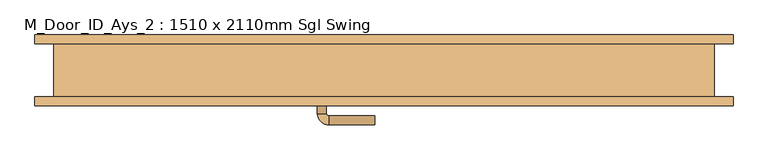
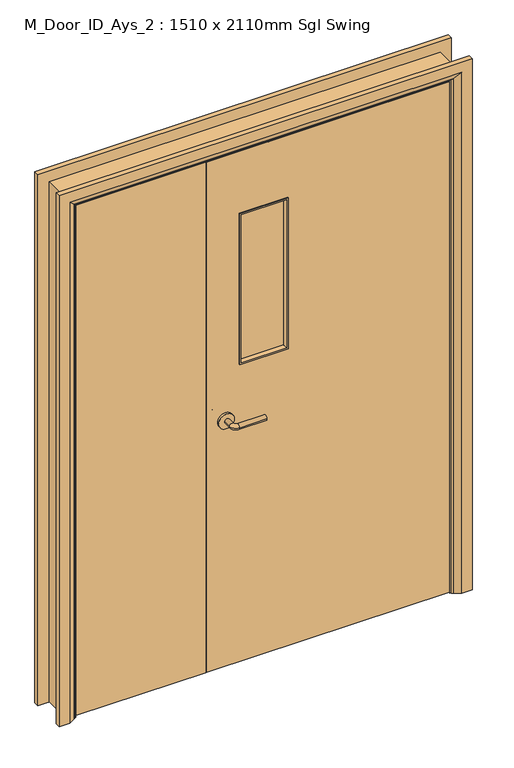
"""IFC4 building model written with IfcOpenShell, lengths in millimetres: door geometry, M_Door_ID_Ays_2 : 1510 x 2110mm Sgl Swing."""

from ifc_helpers import new_model, si_unit, point, frame, frame_2d, origin, place, context, project, spatial, polyline, circle_curve, ellipse_curve, trimmed, segment, composite_curve, outline, extrude, faceted_brep, source, transform, mapped, element, save
from ifc_brep_helpers import plane_surface, cylinder_surface, revolved_surface, advanced_brep


def m_door_id_ays_2_1510_x_2110mm_sgl_swing_0fa4cad0(model_context):
    return source(origin(), model_context, "Body", "SolidModel", [
        advanced_brep(
        [(88.5, -20.0, 1000.0), (108.5, -20.0, 1000.0), (88.5, 10.0, 1000.0), (108.5, 10.0, 1000.0), (113.5, 15.0, 1000.0), (113.5, 35.0, 1000.0), (218.5, 35.0, 1000.0), (218.5, 15.0, 1000.0)],
        [
            (0, 1, circle_curve(frame((98.5, -20.0, 1000.0), z_axis=(0.0, -1.0, 0.0), x_axis=(1.0, 0.0, 0.0)), 10.0)),
            (1, 0, circle_curve(frame((98.5, -20.0, 1000.0), z_axis=(0.0, -1.0, 0.0), x_axis=(1.0, 0.0, 0.0)), 10.0)),
            (0, 2),
            (2, 3, circle_curve(frame((98.5, 10.0, 1000.0), z_axis=(0.0, -1.0, 0.0), x_axis=(1.0, 0.0, 0.0)), 10.0)),
            (3, 1),
            (3, 2, circle_curve(frame((98.5, 10.0, 1000.0), z_axis=(0.0, -1.0, 0.0), x_axis=(1.0, 0.0, 0.0)), 10.0)),
            (4, 3, circle_curve(frame((113.5, 10.0, 1000.0), z_axis=(0.0, 0.0, 1.0), x_axis=(-1.0, 0.0, 0.0)), 5.0)),
            (2, 5, circle_curve(frame((113.5, 10.0, 1000.0), z_axis=(0.0, 0.0, -1.0), x_axis=(-1.0, 0.0, 0.0)), 25.0)),
            (5, 4, circle_curve(frame((113.5, 25.0, 1000.0), z_axis=(-1.0, 0.0, 0.0), x_axis=(0.0, -1.0, 0.0)), 10.0)),
            (4, 5, circle_curve(frame((113.5, 25.0, 1000.0), z_axis=(-1.0, 0.0, 0.0), x_axis=(0.0, -1.0, 0.0)), 10.0)),
            (6, 7, circle_curve(frame((218.5, 25.0, 1000.0), z_axis=(1.0, 0.0, 0.0), x_axis=(0.0, -1.0, 0.0)), 10.0)),
            (7, 6, circle_curve(frame((218.5, 25.0, 1000.0), z_axis=(1.0, 0.0, 0.0), x_axis=(0.0, -1.0, 0.0)), 10.0)),
            (5, 6),
            (7, 4),
        ],
        [
            plane_surface(frame((98.5, -20.0, 1000.0), z_axis=(0.0, -1.0, 0.0), x_axis=(0.0, 0.0, 1.0))),
            cylinder_surface(frame((98.5, -20.0, 1000.0), z_axis=(0.0, -1.0, 0.0), x_axis=(1.0, 0.0, 0.0)), 10.0),
            revolved_surface(trimmed(ellipse_curve(frame((98.5, 10.0, 1000.0), z_axis=(0.0, -1.0, 0.0), x_axis=(1.0, 0.0, 0.0)), 10.0, 10.0), [point((88.5, 10.0, 1000.0))], [point((108.5, 10.0, 1000.0))], True, "CARTESIAN"), (113.5, 10.0, 1000.0), (0.0, 0.0, -1.0)),
            revolved_surface(trimmed(ellipse_curve(frame((98.5, 10.0, 1000.0), z_axis=(0.0, -1.0, 0.0), x_axis=(1.0, 0.0, 0.0)), 10.0, 10.0), [point((108.5, 10.0, 1000.0))], [point((88.5, 10.0, 1000.0))], True, "CARTESIAN"), (113.5, 10.0, 1000.0), (0.0, 0.0, -1.0)),
            plane_surface(frame((218.5, 25.0, 1000.0), z_axis=(1.0, 0.0, 0.0), x_axis=(0.0, 0.0, 1.0))),
            cylinder_surface(frame((113.5, 25.0, 1000.0), z_axis=(-1.0, 0.0, 0.0), x_axis=(0.0, -1.0, 0.0)), 10.0),
        ],
        [
            (0, [[1, 2]]),
            (1, [[-1, 3, 4, 5]]),
            (1, [[-2, -5, 6, -3]]),
            (2, [[7, -4, 8, 9]]),
            (3, [[-8, -6, -7, 10]]),
            (4, [[11, 12]]),
            (5, [[-9, 13, -12, 14]]),
            (5, [[-10, -14, -11, -13]]),
        ],
    ),
        extrude(outline(composite_curve([segment(trimmed(circle_curve(frame_2d((1000.0, 96.0)), 30.0), [point((1000.0, 66.0))], [point((1000.0, 126.0))], False, "CARTESIAN"), True, "CONTINUOUS"), segment(trimmed(circle_curve(frame_2d((1000.0, 96.0)), 30.0), [point((1000.0, 126.0))], [point((1000.0, 66.0))], False, "CARTESIAN"), True, "CONTINUOUS")], self_intersect=False)), frame((0.0, -28.0, 0.0), z_axis=(0.0, 1.0, 0.0), x_axis=(0.0, 0.0, 1.0)), (0.0, 0.0, 1.0), 8.0),
        advanced_brep(
        [(88.5, -68.0, 1000.0), (108.5, -68.0, 1000.0), (108.5, -98.0, 1000.0), (88.5, -98.0, 1000.0), (113.5, -103.0, 1000.0), (113.5, -123.0, 1000.0), (218.5, -123.0, 1000.0), (218.5, -103.0, 1000.0)],
        [
            (0, 1, circle_curve(frame((98.5, -68.0, 1000.0), z_axis=(0.0, 1.0, 0.0), x_axis=(1.0, 0.0, 0.0)), 10.0)),
            (1, 0, circle_curve(frame((98.5, -68.0, 1000.0), z_axis=(0.0, 1.0, 0.0), x_axis=(1.0, 0.0, 0.0)), 10.0)),
            (1, 2),
            (2, 3, circle_curve(frame((98.5, -98.0, 1000.0), z_axis=(0.0, 1.0, 0.0), x_axis=(1.0, 0.0, 0.0)), 10.0)),
            (3, 0),
            (3, 2, circle_curve(frame((98.5, -98.0, 1000.0), z_axis=(0.0, 1.0, 0.0), x_axis=(1.0, 0.0, 0.0)), 10.0)),
            (4, 5, circle_curve(frame((113.5, -113.0, 1000.0), z_axis=(-1.0, 0.0, 0.0), x_axis=(0.0, 1.0, 0.0)), 10.0)),
            (5, 3, circle_curve(frame((113.5, -98.0, 1000.0), z_axis=(0.0, 0.0, -1.0), x_axis=(-1.0, 0.0, 0.0)), 25.0)),
            (2, 4, circle_curve(frame((113.5, -98.0, 1000.0), z_axis=(0.0, 0.0, 1.0), x_axis=(-1.0, 0.0, 0.0)), 5.0)),
            (5, 4, circle_curve(frame((113.5, -113.0, 1000.0), z_axis=(-1.0, 0.0, 0.0), x_axis=(0.0, 1.0, 0.0)), 10.0)),
            (6, 7, circle_curve(frame((218.5, -113.0, 1000.0), z_axis=(1.0, 0.0, 0.0), x_axis=(0.0, 1.0, 0.0)), 10.0)),
            (7, 6, circle_curve(frame((218.5, -113.0, 1000.0), z_axis=(1.0, 0.0, 0.0), x_axis=(0.0, 1.0, 0.0)), 10.0)),
            (4, 7),
            (6, 5),
        ],
        [
            plane_surface(frame((98.5, -68.0, 1000.0), z_axis=(0.0, 1.0, 0.0), x_axis=(0.0, 0.0, 1.0))),
            cylinder_surface(frame((98.5, -68.0, 1000.0), z_axis=(0.0, 1.0, 0.0), x_axis=(1.0, 0.0, 0.0)), 10.0),
            revolved_surface(trimmed(ellipse_curve(frame((98.5, -98.0, 1000.0), z_axis=(0.0, -1.0, 0.0), x_axis=(1.0, 0.0, 0.0)), 10.0, 10.0), [point((88.5, -98.0, 1000.0))], [point((108.5, -98.0, 1000.0))], True, "CARTESIAN"), (113.5, -98.0, 1000.0), (0.0, 0.0, -1.0)),
            revolved_surface(trimmed(ellipse_curve(frame((98.5, -98.0, 1000.0), z_axis=(0.0, -1.0, 0.0), x_axis=(1.0, 0.0, 0.0)), 10.0, 10.0), [point((108.5, -98.0, 1000.0))], [point((88.5, -98.0, 1000.0))], True, "CARTESIAN"), (113.5, -98.0, 1000.0), (0.0, 0.0, -1.0)),
            plane_surface(frame((218.5, -113.0, 1000.0), z_axis=(1.0, 0.0, 0.0), x_axis=(0.0, 0.0, 1.0))),
            cylinder_surface(frame((113.5, -113.0, 1000.0), z_axis=(-1.0, 0.0, 0.0), x_axis=(0.0, 1.0, 0.0)), 10.0),
        ],
        [
            (0, [[1, 2]]),
            (1, [[3, 4, 5, -2]]),
            (1, [[-5, 6, -3, -1]]),
            (2, [[7, 8, -4, 9]]),
            (3, [[10, -9, -6, -8]]),
            (4, [[11, 12]]),
            (5, [[13, -11, 14, -7]]),
            (5, [[-14, -12, -13, -10]]),
        ],
    ),
        extrude(outline(composite_curve([segment(trimmed(circle_curve(frame_2d((1000.0, 96.0)), 30.0), [point((1000.0, 66.0))], [point((1000.0, 126.0))], False, "CARTESIAN"), True, "CONTINUOUS"), segment(trimmed(circle_curve(frame_2d((1000.0, 96.0)), 30.0), [point((1000.0, 126.0))], [point((1000.0, 66.0))], False, "CARTESIAN"), True, "CONTINUOUS")], self_intersect=False)), frame((0.0, -68.0, 0.0), z_axis=(0.0, 1.0, 0.0), x_axis=(0.0, 0.0, 1.0)), (0.0, 0.0, 1.0), 8.0),
        extrude(outline(polyline([(2102.0, -508.0), (0.0, -508.0), (0.0, -476.0), (2070.0, -476.0), (2070.0, 954.0), (0.0, 954.0), (0.0, 986.0), (2102.0, 986.0), (2102.0, -508.0)])), frame((0.0, -60.0, 0.0), z_axis=(0.0, 1.0, 0.0), x_axis=(0.0, 0.0, 1.0)), (0.0, 0.0, 1.0), 120.0),
        faceted_brep([(-457.0, -25.0, 0.0), (-476.0, -25.0, 0.0), (-476.0, 7.0, 0.0), (-457.0, 7.0, 0.0), (-457.0, 7.0, 2051.0), (-457.0, -25.0, 2051.0), (-476.0, 7.0, 2070.0), (-476.0, -25.0, 2070.0), (935.0, -25.0, 0.0), (935.0, 7.0, 0.0), (954.0, 7.0, 0.0), (954.0, -25.0, 0.0), (935.0, -25.0, 2051.0), (954.0, -25.0, 2070.0), (954.0, 7.0, 2070.0), (935.0, 7.0, 2051.0)], [[[0, 1, 2, 3]], [[3, 4, 5, 0]], [[2, 6, 4, 3]], [[1, 7, 6, 2]], [[0, 5, 7, 1]], [[8, 9, 10, 11]], [[12, 8, 11, 13]], [[13, 11, 10, 14]], [[14, 10, 9, 15]], [[15, 9, 8, 12]], [[4, 15, 12, 5]], [[6, 14, 15, 4]], [[7, 13, 14, 6]], [[5, 12, 13, 7]]]),
        advanced_brep(
        [(1029.0, -80.0, 0.0), (989.0, -80.0, 0.0), (963.0, -66.0, 0.0), (959.0, -60.0, 0.0), (1029.0, -60.0, 0.0), (1029.0, -60.0, 2145.0), (1029.0, -80.0, 2145.0), (959.0, -60.0, 2075.0), (-481.0, -60.0, 2075.0), (-481.0, -60.0, 0.0), (-551.0, -60.0, 0.0), (-551.0, -60.0, 2145.0), (963.0, -66.0, 2079.0), (989.0, -80.0, 2105.0), (-551.0, -80.0, 2145.0), (-551.0, -80.0, 0.0), (-511.0, -80.0, 0.0), (-511.0, -80.0, 2105.0), (-485.0, -66.0, 0.0), (-485.0, -66.0, 2079.0)],
        [
            (0, 1),
            (1, 2),
            (2, 3, circle_curve(frame((967.0, -59.0, 0.0), z_axis=(0.0, 0.0, -1.0), x_axis=(1.0, 0.0, 0.0)), 8.0622577)),
            (3, 4),
            (4, 0),
            (4, 5),
            (5, 6),
            (6, 0),
            (3, 7),
            (7, 8),
            (8, 9),
            (9, 10),
            (10, 11),
            (11, 5),
            (2, 12),
            (12, 7, ellipse_curve(frame((967.0, -59.0, 2083.0), z_axis=(0.7071067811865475, 0.0, -0.7071067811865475), x_axis=(-0.7071067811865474, 0.0, -0.7071067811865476)), 11.4017543, 8.0622577)),
            (1, 13),
            (13, 12),
            (6, 14),
            (14, 15),
            (15, 16),
            (16, 17),
            (17, 13),
            (10, 15),
            (14, 11),
            (9, 18, circle_curve(frame((-489.0, -59.0, 0.0), z_axis=(0.0, 0.0, -1.0), x_axis=(-1.0, 0.0, 0.0)), 8.0622577)),
            (18, 16),
            (19, 18),
            (8, 19, ellipse_curve(frame((-489.0, -59.0, 2083.0), z_axis=(-0.7071067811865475, 0.0, -0.7071067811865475), x_axis=(-0.7071067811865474, 0.0, 0.7071067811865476)), 11.4017543, 8.0622577)),
            (19, 17),
            (12, 19),
        ],
        [
            plane_surface(frame((959.0, -60.0, 0.0), z_axis=(0.0, 0.0, -1.0), x_axis=(0.0, 1.0, 0.0))),
            plane_surface(frame((1029.0, -80.0, 0.0), z_axis=(1.0, 0.0, 0.0), x_axis=(0.0, 0.0, 1.0))),
            plane_surface(frame((1029.0, -60.0, 0.0), z_axis=(0.0, 1.0, 0.0), x_axis=(0.0, 0.0, 1.0))),
            cylinder_surface(frame((967.0, -59.0, 0.0), z_axis=(0.0, 0.0, -1.0), x_axis=(1.0, 0.0, 0.0)), 8.0622577),
            plane_surface(frame((963.0, -66.0, 0.0), z_axis=(-0.4740998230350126, -0.8804710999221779, 0.0), x_axis=(0.0, 0.0, 1.0))),
            plane_surface(frame((989.0, -80.0, 0.0), z_axis=(0.0, -1.0, 0.0), x_axis=(0.0, 0.0, 1.0))),
            plane_surface(frame((-551.0, -80.0, 2145.0), z_axis=(-1.0, 0.0, 0.0), x_axis=(0.0, 0.0, -1.0))),
            plane_surface(frame((-481.0, -60.0, 0.0), z_axis=(0.0, 0.0, -1.0), x_axis=(0.0, 1.0, 0.0))),
            cylinder_surface(frame((-489.0, -59.0, 2075.0), z_axis=(0.0, 0.0, 1.0), x_axis=(-1.0, 0.0, 0.0)), 8.0622577),
            plane_surface(frame((-485.0, -66.0, 2079.0), z_axis=(0.4740998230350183, -0.8804710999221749, 0.0), x_axis=(0.0, 0.0, -1.0))),
            plane_surface(frame((1029.0, -80.0, 2145.0), z_axis=(0.0, 0.0, 1.0), x_axis=(-1.0, 0.0, 0.0))),
            cylinder_surface(frame((959.0, -59.0, 2083.0), z_axis=(1.0, 0.0, 0.0), x_axis=(0.0, 0.0, 1.0)), 8.0622577),
            plane_surface(frame((963.0, -66.0, 2079.0), z_axis=(0.0, -0.8804710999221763, -0.4740998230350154), x_axis=(-1.0, 0.0, 0.0))),
        ],
        [
            (0, [[1, 2, 3, 4, 5]]),
            (1, [[6, 7, 8, -5]]),
            (2, [[9, 10, 11, 12, 13, 14, -6, -4]]),
            (3, [[15, 16, -9, -3]]),
            (4, [[17, 18, -15, -2]]),
            (5, [[-8, 19, 20, 21, 22, 23, -17, -1]]),
            (6, [[-13, 24, -20, 25]]),
            (7, [[-24, -12, 26, 27, -21]]),
            (8, [[28, -26, -11, 29]]),
            (9, [[-22, -27, -28, 30]]),
            (10, [[-14, -25, -19, -7]]),
            (11, [[31, -29, -10, -16]]),
            (12, [[-23, -30, -31, -18]]),
        ],
    ),
        advanced_brep(
        [(-551.0, 80.0, 0.0), (-511.0, 80.0, 0.0), (-485.0, 66.0, 0.0), (-481.0, 60.0, 0.0), (-551.0, 60.0, 0.0), (-551.0, 60.0, 2145.0), (-551.0, 80.0, 2145.0), (-481.0, 60.0, 2075.0), (959.0, 60.0, 2075.0), (959.0, 60.0, 0.0), (1029.0, 60.0, 0.0), (1029.0, 60.0, 2145.0), (-485.0, 66.0, 2079.0), (-511.0, 80.0, 2105.0), (1029.0, 80.0, 2145.0), (1029.0, 80.0, 0.0), (989.0, 80.0, 0.0), (989.0, 80.0, 2105.0), (963.0, 66.0, 0.0), (963.0, 66.0, 2079.0)],
        [
            (0, 1),
            (1, 2),
            (2, 3, circle_curve(frame((-489.0, 59.0, 0.0), z_axis=(0.0, 0.0, -1.0), x_axis=(-1.0, 0.0, 0.0)), 8.0622577)),
            (3, 4),
            (4, 0),
            (4, 5),
            (5, 6),
            (6, 0),
            (3, 7),
            (7, 8),
            (8, 9),
            (9, 10),
            (10, 11),
            (11, 5),
            (2, 12),
            (12, 7, ellipse_curve(frame((-489.0, 59.0, 2083.0), z_axis=(-0.7071067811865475, 0.0, -0.7071067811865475), x_axis=(0.7071067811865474, 0.0, -0.7071067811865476)), 11.4017543, 8.0622577)),
            (1, 13),
            (13, 12),
            (6, 14),
            (14, 15),
            (15, 16),
            (16, 17),
            (17, 13),
            (10, 15),
            (14, 11),
            (9, 18, circle_curve(frame((967.0, 59.0, 0.0), z_axis=(0.0, 0.0, -1.0), x_axis=(1.0, 0.0, 0.0)), 8.0622577)),
            (18, 16),
            (19, 18),
            (8, 19, ellipse_curve(frame((967.0, 59.0, 2083.0), z_axis=(0.7071067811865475, 0.0, -0.7071067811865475), x_axis=(0.7071067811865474, 0.0, 0.7071067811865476)), 11.4017543, 8.0622577)),
            (19, 17),
            (12, 19),
        ],
        [
            plane_surface(frame((-481.0, 60.0, 0.0), z_axis=(0.0, 0.0, -1.0), x_axis=(0.0, 1.0, 0.0))),
            plane_surface(frame((-551.0, 80.0, 0.0), z_axis=(-1.0, 0.0, 0.0), x_axis=(0.0, 0.0, 1.0))),
            plane_surface(frame((-551.0, 60.0, 0.0), z_axis=(0.0, -1.0, 0.0), x_axis=(0.0, 0.0, 1.0))),
            cylinder_surface(frame((-489.0, 59.0, 0.0), z_axis=(0.0, 0.0, -1.0), x_axis=(-1.0, 0.0, 0.0)), 8.0622577),
            plane_surface(frame((-485.0, 66.0, 0.0), z_axis=(0.4740998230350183, 0.8804710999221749, 0.0), x_axis=(0.0, 0.0, 1.0))),
            plane_surface(frame((-511.0, 80.0, 0.0), z_axis=(0.0, 1.0, 0.0), x_axis=(0.0, 0.0, 1.0))),
            plane_surface(frame((1029.0, 80.0, 2145.0), z_axis=(1.0, 0.0, 0.0), x_axis=(0.0, 0.0, -1.0))),
            plane_surface(frame((959.0, 60.0, 0.0), z_axis=(0.0, 0.0, -1.0), x_axis=(0.0, 1.0, 0.0))),
            cylinder_surface(frame((967.0, 59.0, 2075.0), z_axis=(0.0, 0.0, 1.0), x_axis=(1.0, 0.0, 0.0)), 8.0622577),
            plane_surface(frame((963.0, 66.0, 2079.0), z_axis=(-0.4740998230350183, 0.8804710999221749, 0.0), x_axis=(0.0, 0.0, -1.0))),
            plane_surface(frame((-551.0, 80.0, 2145.0), z_axis=(0.0, 0.0, 1.0), x_axis=(1.0, 0.0, 0.0))),
            cylinder_surface(frame((-481.0, 59.0, 2083.0), z_axis=(-1.0, 0.0, 0.0), x_axis=(0.0, 0.0, 1.0)), 8.0622577),
            plane_surface(frame((-485.0, 66.0, 2079.0), z_axis=(0.0, 0.8804710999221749, -0.4740998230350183), x_axis=(1.0, 0.0, 0.0))),
        ],
        [
            (0, [[1, 2, 3, 4, 5]]),
            (1, [[6, 7, 8, -5]]),
            (2, [[9, 10, 11, 12, 13, 14, -6, -4]]),
            (3, [[15, 16, -9, -3]]),
            (4, [[17, 18, -15, -2]]),
            (5, [[-8, 19, 20, 21, 22, 23, -17, -1]]),
            (6, [[-13, 24, -20, 25]]),
            (7, [[-24, -12, 26, 27, -21]]),
            (8, [[28, -26, -11, 29]]),
            (9, [[-22, -27, -28, 30]]),
            (10, [[-14, -25, -19, -7]]),
            (11, [[31, -29, -10, -16]]),
            (12, [[-23, -30, -31, -18]]),
        ],
    ),
        extrude(outline(polyline([(5.753223, 951.0), (2067.0, 951.0), (2067.0, 25.0), (5.753223, 25.0), (5.753223, 951.0)]), holes=[polyline([(1817.0, 150.0), (1817.0, 335.0), (1207.0, 335.0), (1207.0, 150.0), (1817.0, 150.0)])]), frame((0.0, -60.0, 0.0), z_axis=(0.0, 1.0, 0.0), x_axis=(0.0, 0.0, 1.0)), (0.0, 0.0, 1.0), 32.0),
        extrude(outline(polyline([(22.0, -28.0), (22.0, -60.0), (-473.0, -60.0), (-473.0, -28.0), (22.0, -28.0)])), frame((0.0, 0.0, 5.753223), z_axis=(0.0, 0.0, 1.0), x_axis=(1.0, 0.0, 0.0)), (0.0, 0.0, 1.0), 2061.246777),
        extrude(outline(polyline([(335.0, -38.0), (335.0, -50.0), (150.0, -50.0), (150.0, -38.0), (335.0, -38.0)])), frame((0.0, 0.0, 1207.0), z_axis=(0.0, 0.0, 1.0), x_axis=(1.0, 0.0, 0.0)), (0.0, 0.0, 1.0), 610.0),
        faceted_brep([(150.0, -63.0, 1207.0), (150.0, -63.0, 1817.0), (150.0, -50.0, 1817.0), (150.0, -50.0, 1207.0), (162.0, -50.0, 1219.0), (162.0, -50.0, 1805.0), (156.0, -63.0, 1811.0), (156.0, -63.0, 1213.0), (335.0, -63.0, 1817.0), (335.0, -50.0, 1817.0), (323.0, -50.0, 1805.0), (329.0, -63.0, 1811.0), (335.0, -63.0, 1207.0), (335.0, -50.0, 1207.0), (323.0, -50.0, 1219.0), (329.0, -63.0, 1213.0)], [[[0, 1, 2, 3]], [[4, 5, 6, 7]], [[1, 8, 9, 2]], [[5, 10, 11, 6]], [[8, 12, 13, 9]], [[10, 14, 15, 11]], [[3, 2, 9, 13], [5, 4, 14, 10]], [[12, 0, 3, 13]], [[1, 0, 12, 8], [7, 6, 11, 15]], [[14, 4, 7, 15]]]),
        faceted_brep([(335.0, -25.0, 1207.0), (335.0, -25.0, 1817.0), (335.0, -38.0, 1817.0), (335.0, -38.0, 1207.0), (323.0, -38.0, 1219.0), (323.0, -38.0, 1805.0), (329.0, -25.0, 1811.0), (329.0, -25.0, 1213.0), (150.0, -25.0, 1817.0), (150.0, -38.0, 1817.0), (162.0, -38.0, 1805.0), (156.0, -25.0, 1811.0), (150.0, -25.0, 1207.0), (150.0, -38.0, 1207.0), (162.0, -38.0, 1219.0), (156.0, -25.0, 1213.0)], [[[0, 1, 2, 3]], [[4, 5, 6, 7]], [[1, 8, 9, 2]], [[5, 10, 11, 6]], [[8, 12, 13, 9]], [[10, 14, 15, 11]], [[3, 2, 9, 13], [5, 4, 14, 10]], [[12, 0, 3, 13]], [[1, 0, 12, 8], [7, 6, 11, 15]], [[14, 4, 7, 15]]]),
    ])


if __name__ == "__main__":
    model = new_model("IFC4")
    model_context = context("Model", 3, world=origin())
    ifc_project = project(units=[si_unit("LENGTHUNIT", "METRE", prefix="MILLI")], contexts=[model_context])
    site = spatial("IfcSite", under=ifc_project)
    building = spatial("IfcBuilding", under=site)
    placement = place(None, origin())
    m_door_id_ays_2_1510_x_2110mm_sgl_swing_shape = m_door_id_ays_2_1510_x_2110mm_sgl_swing_0fa4cad0(model_context)
    element("IfcDoor", 1, ObjectType="M_Door_ID_Ays_2 : 1510 x 2110mm Sgl Swing", at=placement, inside=building, context=model_context, shape_type="MappedRepresentation", body=[
        mapped(m_door_id_ays_2_1510_x_2110mm_sgl_swing_shape, transform((0.0, 0.0, 0.0), x_axis=(1.0, 0.0, 0.0), y_axis=(0.0, 1.0, 0.0), z_axis=(0.0, 0.0, 1.0))),
    ])
    save(model, "model.ifc")
